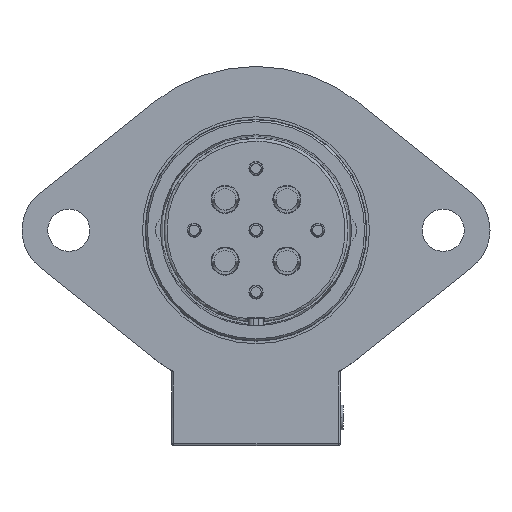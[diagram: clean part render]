
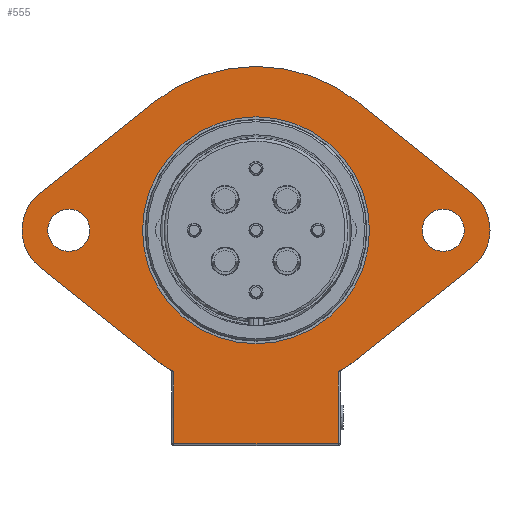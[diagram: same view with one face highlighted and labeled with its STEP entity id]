
A CAD part, front view. The second image highlights one B-rep face of the part: STEP entity #555.
In plain terms, the highlighted planar face has unit normal (0, -1, 0).
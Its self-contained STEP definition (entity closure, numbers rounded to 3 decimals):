
#1=DIRECTION('',(0.,0.,-1.));
#2=VECTOR('',#1,7.674);
#3=CARTESIAN_POINT('',(-8.8,-4.61,-15.126));
#4=LINE('',#3,#2);
#22=CARTESIAN_POINT('',(0.,-4.61,0.));
#23=DIRECTION('',(0.,1.,0.));
#24=DIRECTION('',(-0.503,0.,-0.864));
#25=AXIS2_PLACEMENT_3D('',#22,#23,#24);
#27=DIRECTION('',(-0.781,0.,0.625));
#28=VECTOR('',#27,15.612);
#29=CARTESIAN_POINT('',(-10.938,-4.61,-13.661));
#30=LINE('',#29,#28);
#31=CARTESIAN_POINT('',(-20.,-4.61,0.));
#32=DIRECTION('',(0.,1.,0.));
#33=DIRECTION('',(-0.625,0.,-0.781));
#34=AXIS2_PLACEMENT_3D('',#31,#32,#33);
#36=CARTESIAN_POINT('',(-20.,-4.61,0.));
#37=DIRECTION('',(0.,1.,0.));
#38=DIRECTION('',(-1.,0.,0.));
#39=AXIS2_PLACEMENT_3D('',#36,#37,#38);
#41=DIRECTION('',(0.781,0.,0.625));
#42=VECTOR('',#41,15.612);
#43=CARTESIAN_POINT('',(-23.125,-4.61,3.903));
#44=LINE('',#43,#42);
#45=CARTESIAN_POINT('',(0.,-4.61,0.));
#46=DIRECTION('',(0.,1.,0.));
#47=DIRECTION('',(-0.625,0.,0.781));
#48=AXIS2_PLACEMENT_3D('',#45,#46,#47);
#50=DIRECTION('',(0.781,0.,-0.625));
#51=VECTOR('',#50,15.612);
#52=CARTESIAN_POINT('',(10.938,-4.61,13.661));
#53=LINE('',#52,#51);
#54=CARTESIAN_POINT('',(20.,-4.61,0.));
#55=DIRECTION('',(0.,1.,0.));
#56=DIRECTION('',(0.625,0.,0.781));
#57=AXIS2_PLACEMENT_3D('',#54,#55,#56);
#59=CARTESIAN_POINT('',(20.,-4.61,0.));
#60=DIRECTION('',(0.,1.,0.));
#61=DIRECTION('',(1.,0.,0.));
#62=AXIS2_PLACEMENT_3D('',#59,#60,#61);
#64=DIRECTION('',(-0.781,0.,-0.625));
#65=VECTOR('',#64,15.612);
#66=CARTESIAN_POINT('',(23.125,-4.61,-3.903));
#67=LINE('',#66,#65);
#68=CARTESIAN_POINT('',(0.,-4.61,0.));
#69=DIRECTION('',(0.,1.,0.));
#70=DIRECTION('',(0.625,0.,-0.781));
#71=AXIS2_PLACEMENT_3D('',#68,#69,#70);
#73=CARTESIAN_POINT('',(20.,-4.61,0.));
#74=DIRECTION('',(0.,-1.,0.));
#75=DIRECTION('',(1.,0.,0.));
#76=AXIS2_PLACEMENT_3D('',#73,#74,#75);
#78=CARTESIAN_POINT('',(20.,-4.61,0.));
#79=DIRECTION('',(0.,-1.,0.));
#80=DIRECTION('',(-1.,0.,0.));
#81=AXIS2_PLACEMENT_3D('',#78,#79,#80);
#83=CARTESIAN_POINT('',(-20.,-4.61,0.));
#84=DIRECTION('',(0.,-1.,0.));
#85=DIRECTION('',(-1.,0.,0.));
#86=AXIS2_PLACEMENT_3D('',#83,#84,#85);
#88=CARTESIAN_POINT('',(-20.,-4.61,0.));
#89=DIRECTION('',(0.,-1.,0.));
#90=DIRECTION('',(1.,0.,0.));
#91=AXIS2_PLACEMENT_3D('',#88,#89,#90);
#93=CARTESIAN_POINT('',(0.,-4.61,0.));
#94=DIRECTION('',(0.,-1.,0.));
#95=DIRECTION('',(1.,0.,0.));
#96=AXIS2_PLACEMENT_3D('',#93,#94,#95);
#98=CARTESIAN_POINT('',(0.,-4.61,0.));
#99=DIRECTION('',(0.,-1.,0.));
#100=DIRECTION('',(-1.,0.,0.));
#101=AXIS2_PLACEMENT_3D('',#98,#99,#100);
#112=DIRECTION('',(0.,0.,1.));
#113=VECTOR('',#112,7.674);
#114=CARTESIAN_POINT('',(8.8,-4.61,-22.8));
#115=LINE('',#114,#113);
#313=DIRECTION('',(1.,0.,0.));
#314=VECTOR('',#313,17.6);
#315=CARTESIAN_POINT('',(-8.8,-4.61,-22.8));
#316=LINE('',#315,#314);
#389=CARTESIAN_POINT('',(-23.125,-4.61,3.903));
#390=VERTEX_POINT('',#389);
#391=CARTESIAN_POINT('',(-25.,-4.61,0.));
#392=VERTEX_POINT('',#391);
#393=CARTESIAN_POINT('',(-23.125,-4.61,-3.903));
#394=VERTEX_POINT('',#393);
#437=CARTESIAN_POINT('',(-8.8,-4.61,-15.126));
#438=CARTESIAN_POINT('',(-10.938,-4.61,-13.661));
#439=VERTEX_POINT('',#437);
#440=VERTEX_POINT('',#438);
#441=CARTESIAN_POINT('',(8.8,-4.61,-22.8));
#442=CARTESIAN_POINT('',(8.8,-4.61,-15.126));
#443=VERTEX_POINT('',#441);
#444=VERTEX_POINT('',#442);
#445=CARTESIAN_POINT('',(-8.8,-4.61,-22.8));
#446=VERTEX_POINT('',#445);
#447=CARTESIAN_POINT('',(-10.938,-4.61,13.661));
#448=VERTEX_POINT('',#447);
#449=CARTESIAN_POINT('',(10.937,-4.61,13.661));
#450=VERTEX_POINT('',#449);
#451=CARTESIAN_POINT('',(23.125,-4.61,3.903));
#452=VERTEX_POINT('',#451);
#453=CARTESIAN_POINT('',(25.,-4.61,0.));
#454=VERTEX_POINT('',#453);
#455=CARTESIAN_POINT('',(23.125,-4.61,-3.903));
#456=VERTEX_POINT('',#455);
#457=CARTESIAN_POINT('',(10.938,-4.61,-13.661));
#458=VERTEX_POINT('',#457);
#459=CARTESIAN_POINT('',(22.25,-4.61,0.));
#460=CARTESIAN_POINT('',(17.75,-4.61,0.));
#461=VERTEX_POINT('',#459);
#462=VERTEX_POINT('',#460);
#463=CARTESIAN_POINT('',(-22.25,-4.61,0.));
#464=CARTESIAN_POINT('',(-17.75,-4.61,0.));
#465=VERTEX_POINT('',#463);
#466=VERTEX_POINT('',#464);
#467=CARTESIAN_POINT('',(12.128,-4.61,0.));
#468=CARTESIAN_POINT('',(-12.128,-4.61,0.));
#469=VERTEX_POINT('',#467);
#470=VERTEX_POINT('',#468);
#503=CARTESIAN_POINT('',(0.004,-4.61,-2.643));
#504=DIRECTION('',(0.,1.,0.));
#505=DIRECTION('',(-1.,0.,0.));
#506=AXIS2_PLACEMENT_3D('',#503,#504,#505);
#507=PLANE('',#506);
#509=ORIENTED_EDGE('',*,*,#508,.F.);
#511=ORIENTED_EDGE('',*,*,#510,.F.);
#512=ORIENTED_EDGE('',*,*,#492,.F.);
#514=ORIENTED_EDGE('',*,*,#513,.T.);
#516=ORIENTED_EDGE('',*,*,#515,.T.);
#518=ORIENTED_EDGE('',*,*,#517,.T.);
#520=ORIENTED_EDGE('',*,*,#519,.T.);
#522=ORIENTED_EDGE('',*,*,#521,.T.);
#524=ORIENTED_EDGE('',*,*,#523,.T.);
#526=ORIENTED_EDGE('',*,*,#525,.T.);
#528=ORIENTED_EDGE('',*,*,#527,.T.);
#530=ORIENTED_EDGE('',*,*,#529,.T.);
#532=ORIENTED_EDGE('',*,*,#531,.T.);
#534=ORIENTED_EDGE('',*,*,#533,.T.);
#535=EDGE_LOOP('',(#509,#511,#512,#514,#516,#518,#520,#522,#524,#526,#528,#530,
#532,#534));
#536=FACE_OUTER_BOUND('',#535,.F.);
#538=ORIENTED_EDGE('',*,*,#537,.T.);
#540=ORIENTED_EDGE('',*,*,#539,.T.);
#541=EDGE_LOOP('',(#538,#540));
#542=FACE_BOUND('',#541,.F.);
#544=ORIENTED_EDGE('',*,*,#543,.T.);
#546=ORIENTED_EDGE('',*,*,#545,.T.);
#547=EDGE_LOOP('',(#544,#546));
#548=FACE_BOUND('',#547,.F.);
#550=ORIENTED_EDGE('',*,*,#549,.T.);
#552=ORIENTED_EDGE('',*,*,#551,.T.);
#553=EDGE_LOOP('',(#550,#552));
#554=FACE_BOUND('',#553,.F.);
#26=CIRCLE('',#25,17.5);
#35=CIRCLE('',#34,5.);
#40=CIRCLE('',#39,5.);
#49=CIRCLE('',#48,17.5);
#58=CIRCLE('',#57,5.);
#63=CIRCLE('',#62,5.);
#72=CIRCLE('',#71,17.5);
#77=CIRCLE('',#76,2.25);
#82=CIRCLE('',#81,2.25);
#87=CIRCLE('',#86,2.25);
#92=CIRCLE('',#91,2.25);
#97=CIRCLE('',#96,12.128);
#102=CIRCLE('',#101,12.128);
#492=EDGE_CURVE('',#439,#446,#4,.T.);
#508=EDGE_CURVE('',#443,#444,#115,.T.);
#510=EDGE_CURVE('',#446,#443,#316,.T.);
#513=EDGE_CURVE('',#439,#440,#26,.T.);
#515=EDGE_CURVE('',#440,#394,#30,.T.);
#517=EDGE_CURVE('',#394,#392,#35,.T.);
#519=EDGE_CURVE('',#392,#390,#40,.T.);
#521=EDGE_CURVE('',#390,#448,#44,.T.);
#523=EDGE_CURVE('',#448,#450,#49,.T.);
#525=EDGE_CURVE('',#450,#452,#53,.T.);
#527=EDGE_CURVE('',#452,#454,#58,.T.);
#529=EDGE_CURVE('',#454,#456,#63,.T.);
#531=EDGE_CURVE('',#456,#458,#67,.T.);
#533=EDGE_CURVE('',#458,#444,#72,.T.);
#537=EDGE_CURVE('',#461,#462,#77,.T.);
#539=EDGE_CURVE('',#462,#461,#82,.T.);
#543=EDGE_CURVE('',#465,#466,#87,.T.);
#545=EDGE_CURVE('',#466,#465,#92,.T.);
#549=EDGE_CURVE('',#469,#470,#97,.T.);
#551=EDGE_CURVE('',#470,#469,#102,.T.);
#555=ADVANCED_FACE('',(#536,#542,#548,#554),#507,.F.);
